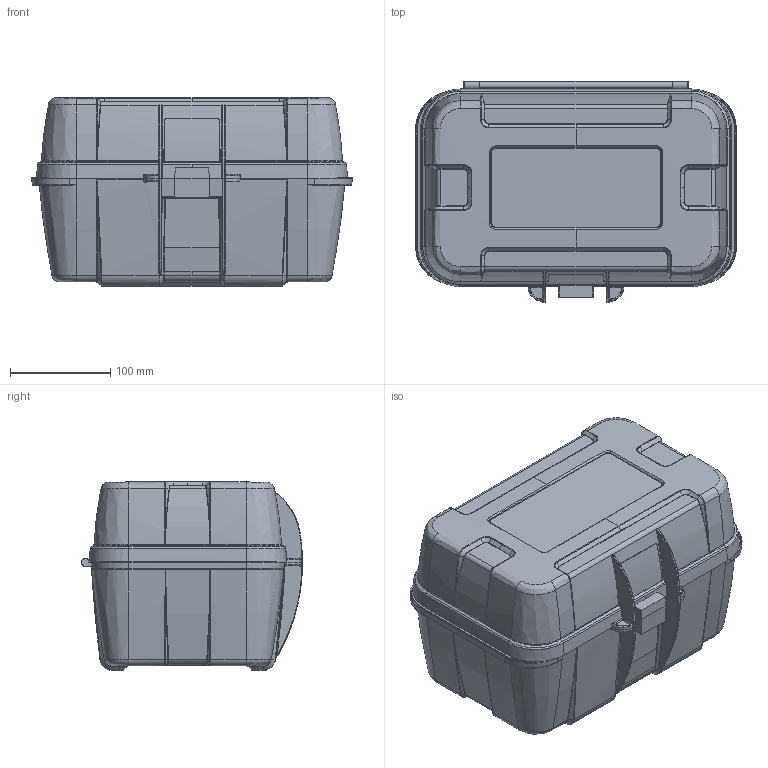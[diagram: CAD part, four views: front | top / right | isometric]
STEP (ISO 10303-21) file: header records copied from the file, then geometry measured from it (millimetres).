
FILE_DESCRIPTION(/* description */ (''),/* implementation_level */ '2;1');
FILE_NAME(/* name */ 'C35_Case_OT-UT.stp',/* time_stamp */ '2014-10-06T09:37:39+02:00',/* author */ (''),/* organization */ (''),/* preprocessor_version */ 'ST-DEVELOPER v15',/* originating_system */ 'SIEMENS PLM Software NX 8.5',/* authorisation */ '');
FILE_SCHEMA (('AUTOMOTIVE_DESIGN { 1 0 10303 214 3 1 1 1 }'));
Products named in the file (1): pk1A9099730gx4
Bounding box: 320.6 x 221 x 188.87 mm (x, y, z)
Volume: 398308.4 mm3; surface area: 559660 mm2
Topology: 1 solids, 2 shells, 1701 faces, 4042 edges, 2307 vertices
Faces by surface type: bspline 1092, cylinder 320, plane 222, cone 28, torus 27, sphere 10, extrusion 2
Entity records: 76550 total; most frequent: CARTESIAN_POINT 44896, ORIENTED_EDGE 7982, DIRECTION 4504, EDGE_CURVE 3991, VERTEX_POINT 2310, AXIS2_PLACEMENT_3D 1794, B_SPLINE_CURVE_WITH_KNOTS 1783, EDGE_LOOP 1717
